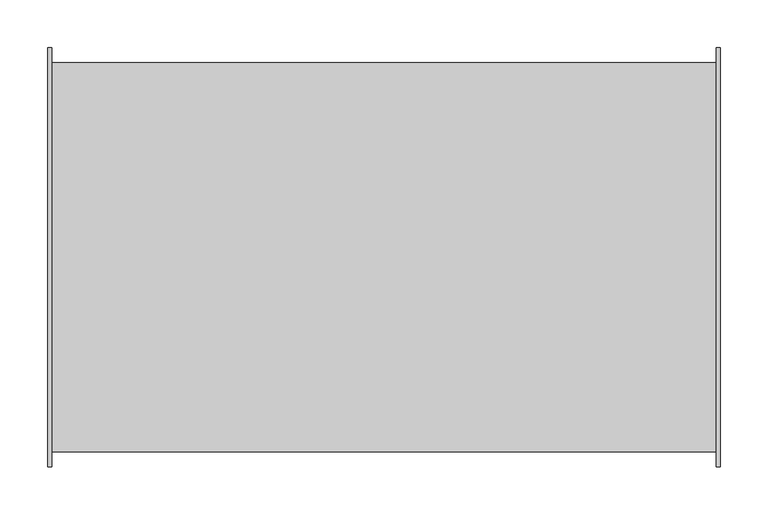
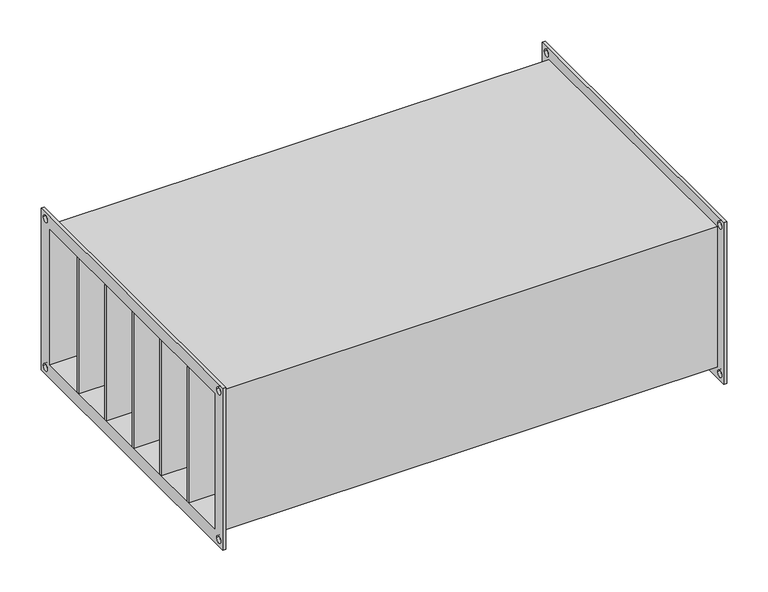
"""IFC4 building model written with IfcOpenShell, lengths in millimetres: damper geometry, СВ_ФильтрКарманный_КанальныйПрямоугольный_200-1000_SFPK : SFPK-400x200."""

from ifc_helpers import new_model, si_unit, frame, origin, place, context, project, spatial, polyline, circle_curve, outline, extrude, source, transform, mapped, element, save
from ifc_brep_helpers import plane_surface, revolved_surface, advanced_brep


def damper_9e3b55d0(model_context):
    return source(origin(), model_context, "Body", "SolidModel", [
        extrude(outline(polyline([(352.5, 133.3333333), (352.5, 129.3333333), (-352.5, 129.3333333), (-352.5, 133.3333333), (352.5, 133.3333333)])), frame((0.0, 0.0, -100.0), z_axis=(0.0, 0.0, 1.0), x_axis=(1.0, 0.0, 0.0)), (0.0, 0.0, 1.0), 200.0),
        extrude(outline(polyline([(352.5, 66.6666667), (352.5, 62.6666667), (-352.5, 62.6666667), (-352.5, 66.6666667), (352.5, 66.6666667)])), frame((0.0, 0.0, -100.0), z_axis=(0.0, 0.0, 1.0), x_axis=(1.0, 0.0, 0.0)), (0.0, 0.0, 1.0), 200.0),
        extrude(outline(polyline([(352.5, 0.0), (352.5, -4.0), (-352.5, -4.0), (-352.5, 0.0), (352.5, 0.0)])), frame((0.0, 0.0, -100.0), z_axis=(0.0, 0.0, 1.0), x_axis=(1.0, 0.0, 0.0)), (0.0, 0.0, 1.0), 200.0),
        extrude(outline(polyline([(352.5, -66.6666667), (352.5, -70.6666667), (-352.5, -70.6666667), (-352.5, -66.6666667), (352.5, -66.6666667)])), frame((0.0, 0.0, -100.0), z_axis=(0.0, 0.0, 1.0), x_axis=(1.0, 0.0, 0.0)), (0.0, 0.0, 1.0), 200.0),
        extrude(outline(polyline([(352.5, -133.3333333), (352.5, -137.3333333), (-352.5, -137.3333333), (-352.5, -133.3333333), (352.5, -133.3333333)])), frame((0.0, 0.0, -100.0), z_axis=(0.0, 0.0, 1.0), x_axis=(1.0, 0.0, 0.0)), (0.0, 0.0, 1.0), 200.0),
        advanced_brep(
        [(348.5, -204.0, 104.0), (-348.5, -204.0, 104.0), (-348.5, -204.0, -104.0), (348.5, -204.0, -104.0), (-348.5, 204.0, -104.0), (348.5, 204.0, -104.0), (-348.5, 204.0, 104.0), (348.5, 204.0, 104.0), (-352.5, -220.0, 120.0), (-352.5, 220.0, 120.0), (-352.5, 220.0, -120.0), (-352.5, -220.0, -120.0), (-352.5, -200.0, 100.0), (-352.5, -200.0, -100.0), (-352.5, 200.0, -100.0), (-352.5, 200.0, 100.0), (-352.5, 205.0, 110.0), (-352.5, 215.0, 110.0), (-352.5, -215.0, 110.0), (-352.5, -205.0, 110.0), (-352.5, -215.0, -110.0), (-352.5, -205.0, -110.0), (-352.5, 205.0, -110.0), (-352.5, 215.0, -110.0), (-348.5, -220.0, 120.0), (-348.5, -220.0, -120.0), (-348.5, 220.0, -120.0), (-348.5, 220.0, 120.0), (-348.5, 215.0, 110.0), (-348.5, 205.0, 110.0), (-348.5, -205.0, 110.0), (-348.5, -215.0, 110.0), (-348.5, -205.0, -110.0), (-348.5, -215.0, -110.0), (-348.5, 215.0, -110.0), (-348.5, 205.0, -110.0), (348.5, 220.0, 120.0), (348.5, 220.0, -120.0), (348.5, -220.0, -120.0), (348.5, -220.0, 120.0), (348.5, 205.0, 110.0), (348.5, 215.0, 110.0), (348.5, -215.0, 110.0), (348.5, -205.0, 110.0), (348.5, -215.0, -110.0), (348.5, -205.0, -110.0), (348.5, 205.0, -110.0), (348.5, 215.0, -110.0), (352.5, 220.0, 120.0), (352.5, -220.0, 120.0), (352.5, -220.0, -120.0), (352.5, 220.0, -120.0), (352.5, 200.0, 100.0), (352.5, 200.0, -100.0), (352.5, -200.0, -100.0), (352.5, -200.0, 100.0), (352.5, 215.0, 110.0), (352.5, 205.0, 110.0), (352.5, -205.0, 110.0), (352.5, -215.0, 110.0), (352.5, -205.0, -110.0), (352.5, -215.0, -110.0), (352.5, 215.0, -110.0), (352.5, 205.0, -110.0)],
        [
            (0, 1),
            (1, 2),
            (2, 3),
            (3, 0),
            (2, 4),
            (4, 5),
            (5, 3),
            (4, 6),
            (6, 7),
            (7, 5),
            (0, 7),
            (6, 1),
            (8, 9),
            (9, 10),
            (10, 11),
            (11, 8),
            (12, 13),
            (13, 14),
            (14, 15),
            (15, 12),
            (16, 17, circle_curve(frame((-352.5, 210.0, 110.0), z_axis=(1.0, 0.0, 0.0), x_axis=(0.0, 1.0, 0.0)), 5.0)),
            (17, 16, circle_curve(frame((-352.5, 210.0, 110.0), z_axis=(1.0, 0.0, 0.0), x_axis=(0.0, 1.0, 0.0)), 5.0)),
            (18, 19, circle_curve(frame((-352.5, -210.0, 110.0), z_axis=(1.0, 0.0, 0.0), x_axis=(0.0, 1.0, 0.0)), 5.0)),
            (19, 18, circle_curve(frame((-352.5, -210.0, 110.0), z_axis=(1.0, 0.0, 0.0), x_axis=(0.0, 1.0, 0.0)), 5.0)),
            (20, 21, circle_curve(frame((-352.5, -210.0, -110.0), z_axis=(1.0, 0.0, 0.0), x_axis=(0.0, 1.0, 0.0)), 5.0)),
            (21, 20, circle_curve(frame((-352.5, -210.0, -110.0), z_axis=(1.0, 0.0, 0.0), x_axis=(0.0, 1.0, 0.0)), 5.0)),
            (22, 23, circle_curve(frame((-352.5, 210.0, -110.0), z_axis=(1.0, 0.0, 0.0), x_axis=(0.0, 1.0, 0.0)), 5.0)),
            (23, 22, circle_curve(frame((-352.5, 210.0, -110.0), z_axis=(1.0, 0.0, 0.0), x_axis=(0.0, 1.0, 0.0)), 5.0)),
            (24, 25),
            (25, 26),
            (26, 27),
            (27, 24),
            (28, 29, circle_curve(frame((-348.5, 210.0, 110.0), z_axis=(-1.0, 0.0, 0.0), x_axis=(0.0, 1.0, 0.0)), 5.0)),
            (29, 28, circle_curve(frame((-348.5, 210.0, 110.0), z_axis=(-1.0, 0.0, 0.0), x_axis=(0.0, 1.0, 0.0)), 5.0)),
            (30, 31, circle_curve(frame((-348.5, -210.0, 110.0), z_axis=(-1.0, 0.0, 0.0), x_axis=(0.0, 1.0, 0.0)), 5.0)),
            (31, 30, circle_curve(frame((-348.5, -210.0, 110.0), z_axis=(-1.0, 0.0, 0.0), x_axis=(0.0, 1.0, 0.0)), 5.0)),
            (32, 33, circle_curve(frame((-348.5, -210.0, -110.0), z_axis=(-1.0, 0.0, 0.0), x_axis=(0.0, 1.0, 0.0)), 5.0)),
            (33, 32, circle_curve(frame((-348.5, -210.0, -110.0), z_axis=(-1.0, 0.0, 0.0), x_axis=(0.0, 1.0, 0.0)), 5.0)),
            (34, 35, circle_curve(frame((-348.5, 210.0, -110.0), z_axis=(-1.0, 0.0, 0.0), x_axis=(0.0, 1.0, 0.0)), 5.0)),
            (35, 34, circle_curve(frame((-348.5, 210.0, -110.0), z_axis=(-1.0, 0.0, 0.0), x_axis=(0.0, 1.0, 0.0)), 5.0)),
            (11, 25),
            (24, 8),
            (10, 26),
            (9, 27),
            (36, 37),
            (37, 38),
            (38, 39),
            (39, 36),
            (40, 41, circle_curve(frame((348.5, 210.0, 110.0), z_axis=(1.0, 0.0, 0.0), x_axis=(0.0, 1.0, 0.0)), 5.0)),
            (41, 40, circle_curve(frame((348.5, 210.0, 110.0), z_axis=(1.0, 0.0, 0.0), x_axis=(0.0, 1.0, 0.0)), 5.0)),
            (42, 43, circle_curve(frame((348.5, -210.0, 110.0), z_axis=(1.0, 0.0, 0.0), x_axis=(0.0, 1.0, 0.0)), 5.0)),
            (43, 42, circle_curve(frame((348.5, -210.0, 110.0), z_axis=(1.0, 0.0, 0.0), x_axis=(0.0, 1.0, 0.0)), 5.0)),
            (44, 45, circle_curve(frame((348.5, -210.0, -110.0), z_axis=(1.0, 0.0, 0.0), x_axis=(0.0, 1.0, 0.0)), 5.0)),
            (45, 44, circle_curve(frame((348.5, -210.0, -110.0), z_axis=(1.0, 0.0, 0.0), x_axis=(0.0, 1.0, 0.0)), 5.0)),
            (46, 47, circle_curve(frame((348.5, 210.0, -110.0), z_axis=(1.0, 0.0, 0.0), x_axis=(0.0, 1.0, 0.0)), 5.0)),
            (47, 46, circle_curve(frame((348.5, 210.0, -110.0), z_axis=(1.0, 0.0, 0.0), x_axis=(0.0, 1.0, 0.0)), 5.0)),
            (48, 49),
            (49, 50),
            (50, 51),
            (51, 48),
            (52, 53),
            (53, 54),
            (54, 55),
            (55, 52),
            (56, 57, circle_curve(frame((352.5, 210.0, 110.0), z_axis=(-1.0, 0.0, 0.0), x_axis=(0.0, 1.0, 0.0)), 5.0)),
            (57, 56, circle_curve(frame((352.5, 210.0, 110.0), z_axis=(-1.0, 0.0, 0.0), x_axis=(0.0, 1.0, 0.0)), 5.0)),
            (58, 59, circle_curve(frame((352.5, -210.0, 110.0), z_axis=(-1.0, 0.0, 0.0), x_axis=(0.0, 1.0, 0.0)), 5.0)),
            (59, 58, circle_curve(frame((352.5, -210.0, 110.0), z_axis=(-1.0, 0.0, 0.0), x_axis=(0.0, 1.0, 0.0)), 5.0)),
            (60, 61, circle_curve(frame((352.5, -210.0, -110.0), z_axis=(-1.0, 0.0, 0.0), x_axis=(0.0, 1.0, 0.0)), 5.0)),
            (61, 60, circle_curve(frame((352.5, -210.0, -110.0), z_axis=(-1.0, 0.0, 0.0), x_axis=(0.0, 1.0, 0.0)), 5.0)),
            (62, 63, circle_curve(frame((352.5, 210.0, -110.0), z_axis=(-1.0, 0.0, 0.0), x_axis=(0.0, 1.0, 0.0)), 5.0)),
            (63, 62, circle_curve(frame((352.5, 210.0, -110.0), z_axis=(-1.0, 0.0, 0.0), x_axis=(0.0, 1.0, 0.0)), 5.0)),
            (39, 49),
            (48, 36),
            (38, 50),
            (37, 51),
            (15, 52),
            (55, 12),
            (14, 53),
            (13, 54),
            (16, 29),
            (28, 17),
            (40, 57),
            (56, 41),
            (18, 31),
            (30, 19),
            (42, 59),
            (58, 43),
            (20, 33),
            (32, 21),
            (44, 61),
            (60, 45),
            (22, 35),
            (34, 23),
            (46, 63),
            (62, 47),
        ],
        [
            plane_surface(frame((348.5, -204.0, 104.0), z_axis=(0.0, -1.0, 0.0), x_axis=(-1.0, 0.0, 0.0))),
            plane_surface(frame((348.5, -204.0, -104.0), z_axis=(0.0, 0.0, -1.0), x_axis=(-1.0, 0.0, 0.0))),
            plane_surface(frame((348.5, 204.0, -104.0), z_axis=(0.0, 1.0, 0.0), x_axis=(-1.0, 0.0, 0.0))),
            plane_surface(frame((348.5, 204.0, 104.0), z_axis=(0.0, 0.0, 1.0), x_axis=(-1.0, 0.0, 0.0))),
            plane_surface(frame((-352.5, -220.0, 120.0), z_axis=(-1.0, 0.0, 0.0), x_axis=(0.0, 0.0, 1.0))),
            plane_surface(frame((-348.5, -220.0, 120.0), z_axis=(1.0, 0.0, 0.0), x_axis=(0.0, 0.0, -1.0))),
            plane_surface(frame((-348.5, -220.0, 120.0), z_axis=(0.0, -1.0, 0.0), x_axis=(-1.0, 0.0, 0.0))),
            plane_surface(frame((-348.5, -220.0, -120.0), z_axis=(0.0, 0.0, -1.0), x_axis=(-1.0, 0.0, 0.0))),
            plane_surface(frame((-348.5, 220.0, -120.0), z_axis=(0.0, 1.0, 0.0), x_axis=(-1.0, 0.0, 0.0))),
            plane_surface(frame((-348.5, 220.0, 120.0), z_axis=(0.0, 0.0, 1.0), x_axis=(-1.0, 0.0, 0.0))),
            plane_surface(frame((348.5, 200.0, -100.0), z_axis=(-1.0, 0.0, 0.0), x_axis=(0.0, 0.0, 1.0))),
            plane_surface(frame((352.5, 200.0, -100.0), z_axis=(1.0, 0.0, 0.0), x_axis=(0.0, 0.0, -1.0))),
            plane_surface(frame((352.5, 220.0, 120.0), z_axis=(0.0, 0.0, 1.0), x_axis=(-1.0, 0.0, 0.0))),
            plane_surface(frame((352.5, -220.0, 120.0), z_axis=(0.0, -1.0, 0.0), x_axis=(-1.0, 0.0, 0.0))),
            plane_surface(frame((352.5, -220.0, -120.0), z_axis=(0.0, 0.0, -1.0), x_axis=(-1.0, 0.0, 0.0))),
            plane_surface(frame((352.5, 220.0, -120.0), z_axis=(0.0, 1.0, 0.0), x_axis=(-1.0, 0.0, 0.0))),
            plane_surface(frame((-348.5, -200.0, 100.0), z_axis=(0.0, 0.0, -1.0), x_axis=(-1.0, 0.0, 0.0))),
            plane_surface(frame((-348.5, 200.0, 100.0), z_axis=(0.0, -1.0, 0.0), x_axis=(-1.0, 0.0, 0.0))),
            plane_surface(frame((-348.5, 200.0, -100.0), z_axis=(0.0, 0.0, 1.0), x_axis=(-1.0, 0.0, 0.0))),
            plane_surface(frame((-348.5, -200.0, -100.0), z_axis=(0.0, 1.0, 0.0), x_axis=(-1.0, 0.0, 0.0))),
            revolved_surface(polyline([(-348.5, 215.0, 110.0), (-352.5, 215.0, 110.0)]), (-352.5, 210.0, 110.0), (1.0, 0.0, 0.0)),
            revolved_surface(polyline([(352.5, 215.0, 110.0), (348.5, 215.0, 110.0)]), (-352.5, 210.0, 110.0), (1.0, 0.0, 0.0)),
            revolved_surface(polyline([(-348.5, -205.0, 110.0), (-352.5, -205.0, 110.0)]), (0.0, -210.0, 110.0), (1.0, 0.0, 0.0)),
            revolved_surface(polyline([(352.5, -205.0, 110.0), (348.5, -205.0, 110.0)]), (0.0, -210.0, 110.0), (1.0, 0.0, 0.0)),
            revolved_surface(polyline([(-348.5, -205.0, -110.0), (-352.5, -205.0, -110.0)]), (0.0, -210.0, -110.0), (1.0, 0.0, 0.0)),
            revolved_surface(polyline([(352.5, -205.0, -110.0), (348.5, -205.0, -110.0)]), (0.0, -210.0, -110.0), (1.0, 0.0, 0.0)),
            revolved_surface(polyline([(-348.5, 215.0, -110.0), (-352.5, 215.0, -110.0)]), (0.0, 210.0, -110.0), (1.0, 0.0, 0.0)),
            revolved_surface(polyline([(352.5, 215.0, -110.0), (348.5, 215.0, -110.0)]), (0.0, 210.0, -110.0), (1.0, 0.0, 0.0)),
        ],
        [
            (0, [[1, 2, 3, 4]]),
            (1, [[-3, 5, 6, 7]]),
            (2, [[-6, 8, 9, 10]]),
            (3, [[-1, 11, -9, 12]]),
            (4, [[13, 14, 15, 16], [17, 18, 19, 20], [21, 22], [23, 24], [25, 26], [27, 28]]),
            (5, [[29, 30, 31, 32], [-2, -12, -8, -5], [33, 34], [35, 36], [37, 38], [39, 40]]),
            (6, [[-16, 41, -29, 42]]),
            (7, [[-15, 43, -30, -41]]),
            (8, [[-14, 44, -31, -43]]),
            (9, [[-13, -42, -32, -44]]),
            (10, [[45, 46, 47, 48], [-4, -7, -10, -11], [49, 50], [51, 52], [53, 54], [55, 56]]),
            (11, [[57, 58, 59, 60], [61, 62, 63, 64], [65, 66], [67, 68], [69, 70], [71, 72]]),
            (12, [[-48, 73, -57, 74]]),
            (13, [[-47, 75, -58, -73]]),
            (14, [[-46, 76, -59, -75]]),
            (15, [[-45, -74, -60, -76]]),
            (16, [[-20, 77, -64, 78]]),
            (17, [[-77, -19, 79, -61]]),
            (18, [[-79, -18, 80, -62]]),
            (19, [[-80, -17, -78, -63]]),
            (20, [[81, -33, 82, -21]]),
            (21, [[83, -65, 84, -49]]),
            (20, [[-81, -22, -82, -34]]),
            (21, [[-83, -50, -84, -66]]),
            (22, [[85, -35, 86, -23]]),
            (23, [[87, -67, 88, -51]]),
            (22, [[-85, -24, -86, -36]]),
            (23, [[-87, -52, -88, -68]]),
            (24, [[89, -37, 90, -25]]),
            (25, [[91, -69, 92, -53]]),
            (24, [[-89, -26, -90, -38]]),
            (25, [[-91, -54, -92, -70]]),
            (26, [[93, -39, 94, -27]]),
            (27, [[95, -71, 96, -55]]),
            (26, [[-93, -28, -94, -40]]),
            (27, [[-95, -56, -96, -72]]),
        ],
    ),
    ])


if __name__ == "__main__":
    model = new_model("IFC4")
    model_context = context("Model", 3, world=origin())
    ifc_project = project(units=[si_unit("LENGTHUNIT", "METRE", prefix="MILLI")], contexts=[model_context])
    site = spatial("IfcSite", under=ifc_project)
    building = spatial("IfcBuilding", under=site)
    placement = place(None, origin())
    damper_shape = damper_9e3b55d0(model_context)
    element("IfcDamper", 1, ObjectType="СВ_ФильтрКарманный_КанальныйПрямоугольный_200-1000_SFPK : SFPK-400x200", at=placement, inside=building, context=model_context, shape_type="MappedRepresentation", body=[
        mapped(damper_shape, transform((0.0, 0.0, 0.0), x_axis=(1.0, 0.0, 0.0), y_axis=(0.0, 1.0, 0.0), z_axis=(0.0, 0.0, 1.0))),
    ])
    save(model, "model.ifc")
